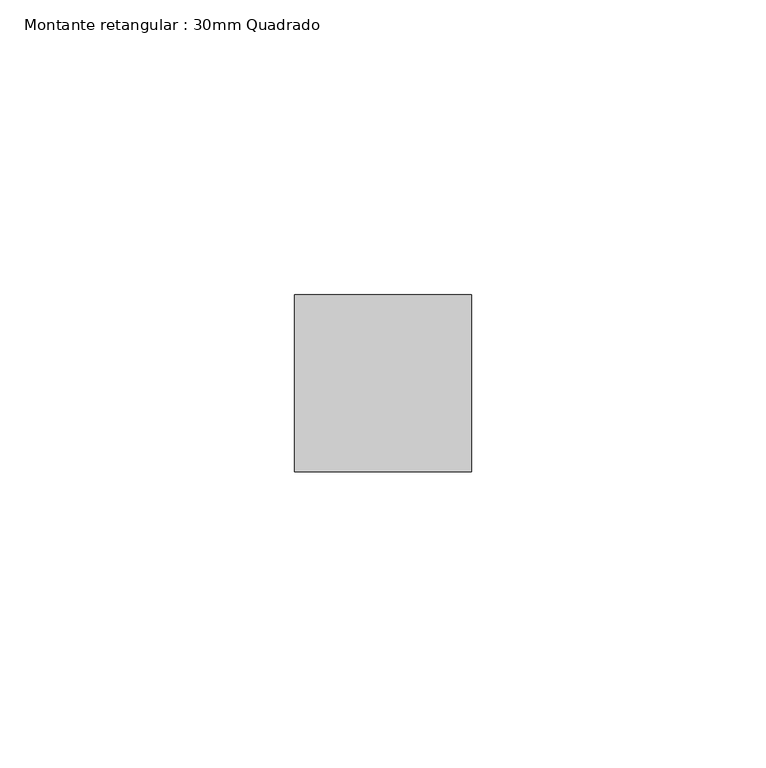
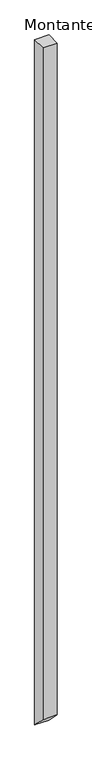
"""IFC4 building model written with IfcOpenShell, lengths in millimetres: member geometry, Montante retangular : 30mm Quadrado."""

from ifc_helpers import new_model, si_unit, frame, origin, place, context, project, spatial, polyline, outline, extrude, source, transform, mapped, element, save


def montante_retangular_30mm_quadrado_996be8a2(model_context):
    return source(origin(), model_context, "Body", "SweptSolid", [
        extrude(outline(polyline([(-15.0, 0.0), (15.0, 0.0), (15.0, -1530.0000003), (-15.0, -1500.0000003), (-15.0, 0.0)])), frame((-30.0, 0.0, 0.0), z_axis=(1.0, 0.0, 0.0), x_axis=(0.0, 1.0, 0.0)), (0.0, 0.0, 1.0), 30.0),
    ])


if __name__ == "__main__":
    model = new_model("IFC4")
    model_context = context("Model", 3, world=origin())
    ifc_project = project(units=[si_unit("LENGTHUNIT", "METRE", prefix="MILLI")], contexts=[model_context])
    site = spatial("IfcSite", under=ifc_project)
    building = spatial("IfcBuilding", under=site)
    placement = place(None, origin())
    montante_retangular_30mm_quadrado_shape = montante_retangular_30mm_quadrado_996be8a2(model_context)
    element("IfcMember", 1, ObjectType="Montante retangular : 30mm Quadrado", at=placement, inside=building, context=model_context, shape_type="MappedRepresentation", body=[
        mapped(montante_retangular_30mm_quadrado_shape, transform((0.0, 0.0, 0.0), x_axis=(1.0, 0.0, 0.0), y_axis=(0.0, 1.0, 0.0), z_axis=(0.0, 0.0, 1.0))),
    ])
    save(model, "model.ifc")
